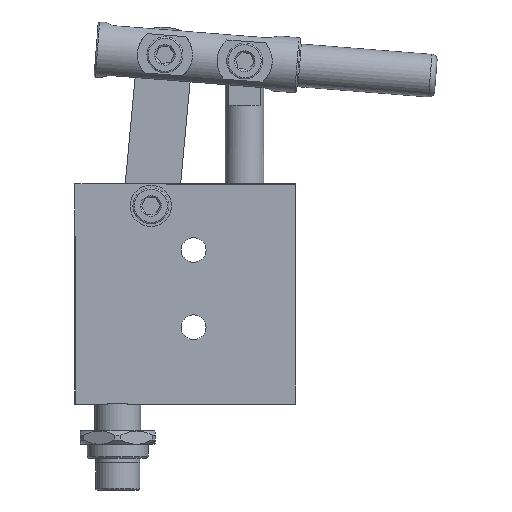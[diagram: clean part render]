
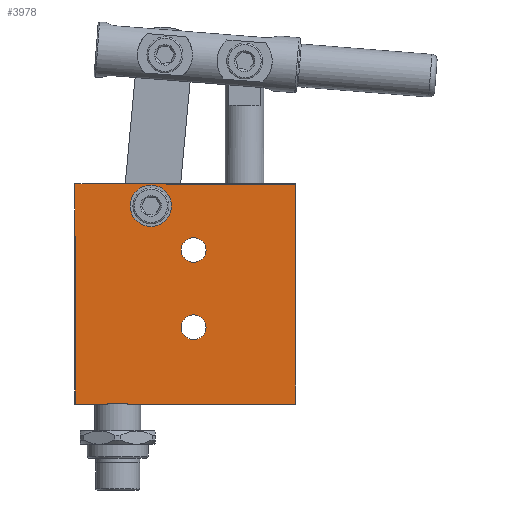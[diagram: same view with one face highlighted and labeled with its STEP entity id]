
A CAD part, front view. The second image highlights one B-rep face of the part: STEP entity #3978.
In plain terms, the highlighted planar face has unit normal (0, -1, 0).
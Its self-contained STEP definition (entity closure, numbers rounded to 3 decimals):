
#265=LINE('',#11589,#478);
#267=LINE('',#11600,#480);
#268=LINE('',#11602,#481);
#278=LINE('',#11625,#491);
#287=LINE('',#11654,#500);
#288=LINE('',#11660,#501);
#289=LINE('',#11662,#502);
#290=LINE('',#11664,#503);
#291=LINE('',#11666,#504);
#292=LINE('',#11668,#505);
#293=LINE('',#11669,#506);
#294=LINE('',#11671,#507);
#478=VECTOR('',#7109,1000.);
#480=VECTOR('',#7127,1000.);
#481=VECTOR('',#7130,1000.);
#491=VECTOR('',#7150,1000.);
#500=VECTOR('',#7175,1000.);
#501=VECTOR('',#7182,1000.);
#502=VECTOR('',#7183,1000.);
#503=VECTOR('',#7184,1000.);
#504=VECTOR('',#7185,1000.);
#505=VECTOR('',#7186,1000.);
#506=VECTOR('',#7187,1000.);
#507=VECTOR('',#7188,1000.);
#711=CIRCLE('',#6223,7.5);
#723=CIRCLE('',#6254,4.5);
#724=CIRCLE('',#6255,4.5);
#1424=ORIENTED_EDGE('',*,*,#2096,.T.);
#1425=ORIENTED_EDGE('',*,*,#2148,.T.);
#1426=ORIENTED_EDGE('',*,*,#2149,.T.);
#1427=ORIENTED_EDGE('',*,*,#2121,.T.);
#1428=ORIENTED_EDGE('',*,*,#2120,.T.);
#1429=ORIENTED_EDGE('',*,*,#2114,.T.);
#1430=ORIENTED_EDGE('',*,*,#2150,.T.);
#1431=ORIENTED_EDGE('',*,*,#2151,.T.);
#1432=ORIENTED_EDGE('',*,*,#2152,.T.);
#1433=ORIENTED_EDGE('',*,*,#2153,.T.);
#1434=ORIENTED_EDGE('',*,*,#2154,.F.);
#1435=ORIENTED_EDGE('',*,*,#2132,.F.);
#1436=ORIENTED_EDGE('',*,*,#2147,.F.);
#1437=ORIENTED_EDGE('',*,*,#2155,.T.);
#1438=ORIENTED_EDGE('',*,*,#2156,.T.);
#2096=EDGE_CURVE('',#2542,#2542,#711,.T.);
#2114=EDGE_CURVE('',#2554,#2560,#265,.T.);
#2120=EDGE_CURVE('',#2561,#2554,#267,.T.);
#2121=EDGE_CURVE('',#2562,#2561,#268,.T.);
#2132=EDGE_CURVE('',#2569,#2570,#278,.T.);
#2147=EDGE_CURVE('',#2581,#2569,#287,.T.);
#2148=EDGE_CURVE('',#2582,#2582,#723,.F.);
#2149=EDGE_CURVE('',#2583,#2583,#724,.F.);
#2150=EDGE_CURVE('',#2560,#2584,#288,.T.);
#2151=EDGE_CURVE('',#2584,#2585,#289,.T.);
#2152=EDGE_CURVE('',#2585,#2586,#290,.T.);
#2153=EDGE_CURVE('',#2586,#2587,#291,.T.);
#2154=EDGE_CURVE('',#2570,#2587,#292,.F.);
#2155=EDGE_CURVE('',#2581,#2588,#293,.T.);
#2156=EDGE_CURVE('',#2588,#2562,#294,.T.);
#2542=VERTEX_POINT('',#11548);
#2554=VERTEX_POINT('',#11576);
#2560=VERTEX_POINT('',#11588);
#2561=VERTEX_POINT('',#11599);
#2562=VERTEX_POINT('',#11603);
#2569=VERTEX_POINT('',#11624);
#2570=VERTEX_POINT('',#11626);
#2581=VERTEX_POINT('',#11653);
#2582=VERTEX_POINT('',#11657);
#2583=VERTEX_POINT('',#11659);
#2584=VERTEX_POINT('',#11661);
#2585=VERTEX_POINT('',#11663);
#2586=VERTEX_POINT('',#11665);
#2587=VERTEX_POINT('',#11667);
#2588=VERTEX_POINT('',#11670);
#3099=EDGE_LOOP('',(#1424));
#3100=EDGE_LOOP('',(#1425));
#3101=EDGE_LOOP('',(#1426));
#3102=EDGE_LOOP('',(#1427,#1428,#1429,#1430,#1431,#1432,#1433,#1434,#1435,
#1436,#1437,#1438));
#3519=FACE_BOUND('',#3099,.T.);
#3520=FACE_BOUND('',#3100,.T.);
#3521=FACE_BOUND('',#3101,.T.);
#3522=FACE_BOUND('',#3102,.T.);
#3734=PLANE('',#6253);
#3978=ADVANCED_FACE('',(#3519,#3520,#3521,#3522),#3734,.T.);
#6223=AXIS2_PLACEMENT_3D('',#11547,#7078,#7079);
#6253=AXIS2_PLACEMENT_3D('',#11655,#7176,#7177);
#6254=AXIS2_PLACEMENT_3D('',#11656,#7178,#7179);
#6255=AXIS2_PLACEMENT_3D('',#11658,#7180,#7181);
#7078=DIRECTION('',(0.,1.,0.));
#7079=DIRECTION('',(1.,0.,0.));
#7109=DIRECTION('',(-1.,0.,0.));
#7127=DIRECTION('',(0.,0.,1.));
#7130=DIRECTION('',(-1.,0.,0.));
#7150=DIRECTION('',(-1.,0.,0.));
#7175=DIRECTION('',(0.,0.,1.));
#7176=DIRECTION('',(0.,-1.,0.));
#7177=DIRECTION('',(1.,0.,0.));
#7178=DIRECTION('',(0.,-1.,0.));
#7179=DIRECTION('',(1.,0.,0.));
#7180=DIRECTION('',(0.,-1.,0.));
#7181=DIRECTION('',(1.,0.,0.));
#7182=DIRECTION('',(0.,0.,-1.));
#7183=DIRECTION('',(1.,0.,0.));
#7184=DIRECTION('',(0.,0.,-1.));
#7185=DIRECTION('',(1.,0.,0.));
#7186=DIRECTION('',(0.,0.,1.));
#7187=DIRECTION('',(1.,0.,0.));
#7188=DIRECTION('',(0.,0.,1.));
#11547=CARTESIAN_POINT('',(-12.5,-12.5,72.));
#11548=CARTESIAN_POINT('',(-5.,-12.5,72.));
#11576=CARTESIAN_POINT('',(-6.952,-12.5,80.));
#11588=CARTESIAN_POINT('',(-40.,-12.5,80.));
#11589=CARTESIAN_POINT('',(-40.,-12.5,80.));
#11599=CARTESIAN_POINT('',(-6.952,-12.5,79.85));
#11600=CARTESIAN_POINT('',(-6.952,-12.5,80.));
#11602=CARTESIAN_POINT('',(-40.,-12.5,79.85));
#11603=CARTESIAN_POINT('',(39.85,-12.5,79.85));
#11624=CARTESIAN_POINT('',(-20.929,-12.5,0.5));
#11625=CARTESIAN_POINT('',(42.,-12.5,0.5));
#11626=CARTESIAN_POINT('',(-28.071,-12.5,0.5));
#11653=CARTESIAN_POINT('',(-20.929,-12.5,0.15));
#11654=CARTESIAN_POINT('',(-20.929,-12.5,0.));
#11655=CARTESIAN_POINT('',(40.,-12.5,80.));
#11656=CARTESIAN_POINT('',(3.,-12.5,56.));
#11657=CARTESIAN_POINT('',(7.5,-12.5,56.));
#11658=CARTESIAN_POINT('',(3.,-12.5,28.));
#11659=CARTESIAN_POINT('',(7.5,-12.5,28.));
#11660=CARTESIAN_POINT('',(-40.,-12.5,58.));
#11661=CARTESIAN_POINT('',(-40.,-12.5,61.));
#11662=CARTESIAN_POINT('',(-6.952,-12.5,61.));
#11663=CARTESIAN_POINT('',(-39.85,-12.5,61.));
#11664=CARTESIAN_POINT('',(-39.85,-12.5,80.));
#11665=CARTESIAN_POINT('',(-39.85,-12.5,0.15));
#11666=CARTESIAN_POINT('',(40.,-12.5,0.15));
#11667=CARTESIAN_POINT('',(-28.071,-12.5,0.15));
#11668=CARTESIAN_POINT('',(-28.071,-12.5,0.));
#11669=CARTESIAN_POINT('',(40.,-12.5,0.15));
#11670=CARTESIAN_POINT('',(39.85,-12.5,0.15));
#11671=CARTESIAN_POINT('',(39.85,-12.5,80.));
